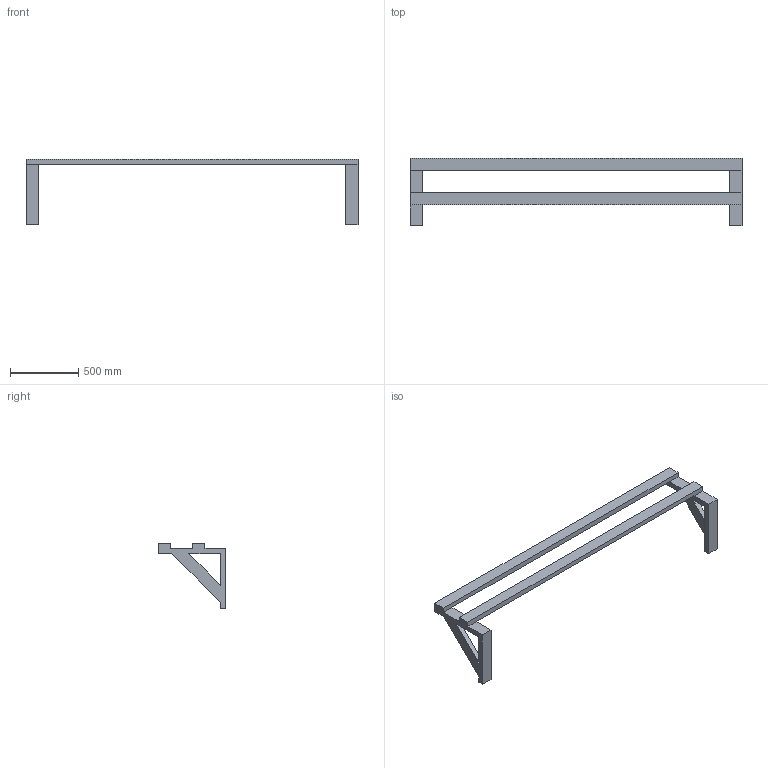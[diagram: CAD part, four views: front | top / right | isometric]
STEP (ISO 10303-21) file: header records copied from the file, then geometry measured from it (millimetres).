
FILE_DESCRIPTION(/* description */ (''),/* implementation_level */ '2;1');
FILE_NAME(/* name */ 'D:\fieldcad\fence8ft.stp',/* time_stamp */ '2023-08-01T19:08:35-05:00',/* author */ ('User'),/* organization */ (''),/* preprocessor_version */ 'ST-DEVELOPER v18.1',/* originating_system */ 'Autodesk Inventor 2022',/* authorisation */ '');
FILE_SCHEMA (('AUTOMOTIVE_DESIGN { 1 0 10303 214 3 1 1 }'));
Length unit declared in the file: inch
Products named in the file (1): fence8ft
Bounding box: 2438.4 x 495.3 x 482.6 mm (x, y, z)
Volume: 25465497.5 mm3; surface area: 1854384.4 mm2
Topology: 1 solids, 1 shells, 30 faces, 90 edges, 58 vertices
Faces by surface type: plane 30
Entity records: 1039 total; most frequent: ORIENTED_EDGE 180, CARTESIAN_POINT 179, DIRECTION 152, LINE 90, VECTOR 90, EDGE_CURVE 90, VERTEX_POINT 58, EDGE_LOOP 32
